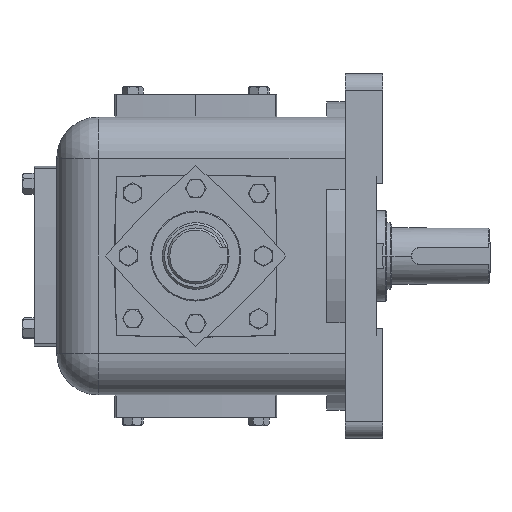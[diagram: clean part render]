
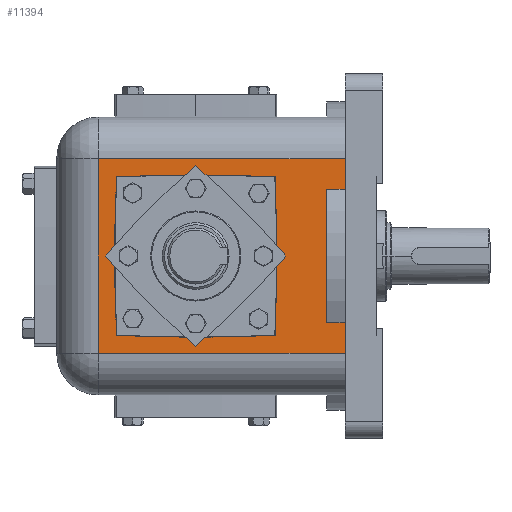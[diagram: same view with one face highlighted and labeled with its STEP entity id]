
A CAD part, left-side view. The second image highlights one B-rep face of the part: STEP entity #11394.
In plain terms, the highlighted planar face has unit normal (-1, 0, 0).
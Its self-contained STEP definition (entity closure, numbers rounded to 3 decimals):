
#160 = CARTESIAN_POINT ( 'NONE',  ( -148.8, -140., -71.299 ) ) ;
#487 = VECTOR ( 'NONE', #10374, 1000. ) ;
#519 = EDGE_CURVE ( 'NONE', #21745, #11830, #16353, .T. ) ;
#544 = EDGE_CURVE ( 'NONE', #16921, #16448, #15235, .T. ) ;
#573 = ORIENTED_EDGE ( 'NONE', *, *, #519, .F. ) ;
#632 = VERTEX_POINT ( 'NONE', #3250 ) ;
#694 = EDGE_CURVE ( 'NONE', #21745, #9436, #22090, .T. ) ;
#814 = CARTESIAN_POINT ( 'NONE',  ( -148.8, -84.85, 84.85 ) ) ;
#1352 = ORIENTED_EDGE ( 'NONE', *, *, #13426, .T. ) ;
#1415 = EDGE_CURVE ( 'NONE', #14057, #7329, #4536, .T. ) ;
#1717 = DIRECTION ( 'NONE',  ( 0., -1., 0. ) ) ;
#1922 = CARTESIAN_POINT ( 'NONE',  ( -148.8, 0., 1714.031 ) ) ;
#1997 = DIRECTION ( 'NONE',  ( 1., 0., 0. ) ) ;
#2115 = ORIENTED_EDGE ( 'NONE', *, *, #8111, .T. ) ;
#2378 = VECTOR ( 'NONE', #7888, 1000. ) ;
#2397 = PLANE ( 'NONE',  #20951 ) ;
#2419 = CARTESIAN_POINT ( 'NONE',  ( -148.8, 0., 1714.031 ) ) ;
#3250 = CARTESIAN_POINT ( 'NONE',  ( -148.8, -160., -71.299 ) ) ;
#3307 = FACE_BOUND ( 'NONE', #16941, .T. ) ;
#3626 = VERTEX_POINT ( 'NONE', #19653 ) ;
#3907 = ORIENTED_EDGE ( 'NONE', *, *, #7628, .T. ) ;
#4536 = CIRCLE ( 'NONE', #20270, 1800.881 ) ;
#4801 = LINE ( 'NONE', #20674, #22060 ) ;
#4873 = VECTOR ( 'NONE', #12652, 1000. ) ;
#4939 = EDGE_CURVE ( 'NONE', #20937, #16921, #20506, .T. ) ;
#5144 = CARTESIAN_POINT ( 'NONE',  ( -148.8, -160., 71.299 ) ) ;
#5302 = CARTESIAN_POINT ( 'NONE',  ( -148.8, -160., 104.345 ) ) ;
#5409 = EDGE_CURVE ( 'NONE', #632, #11830, #8759, .T. ) ;
#5836 = DIRECTION ( 'NONE',  ( -1., 0., 0. ) ) ;
#5942 = DIRECTION ( 'NONE',  ( 1., 0., 0. ) ) ;
#6838 = DIRECTION ( 'NONE',  ( 0., 0., 1. ) ) ;
#7177 = CARTESIAN_POINT ( 'NONE',  ( -148.8, -160., -104.345 ) ) ;
#7329 = VERTEX_POINT ( 'NONE', #814 ) ;
#7542 = CARTESIAN_POINT ( 'NONE',  ( -148.8, -160., -148.8 ) ) ;
#7584 = EDGE_CURVE ( 'NONE', #16448, #9574, #14373, .T. ) ;
#7628 = EDGE_CURVE ( 'NONE', #9574, #632, #4801, .T. ) ;
#7888 = DIRECTION ( 'NONE',  ( 0., 0., -1. ) ) ;
#8018 = FACE_OUTER_BOUND ( 'NONE', #8752, .T. ) ;
#8104 = DIRECTION ( 'NONE',  ( 0., 0., 1. ) ) ;
#8111 = EDGE_CURVE ( 'NONE', #3626, #8923, #20135, .T. ) ;
#8340 = DIRECTION ( 'NONE',  ( 1., 0., 0. ) ) ;
#8426 = CARTESIAN_POINT ( 'NONE',  ( -148.8, 0., -1714.031 ) ) ;
#8554 = ORIENTED_EDGE ( 'NONE', *, *, #21863, .T. ) ;
#8752 = EDGE_LOOP ( 'NONE', ( #3907, #8930, #573, #10458, #14153, #13471, #13004, #19524 ) ) ;
#8759 = LINE ( 'NONE', #18751, #487 ) ;
#8799 = VECTOR ( 'NONE', #6838, 1000. ) ;
#8911 = DIRECTION ( 'NONE',  ( 0., 0., 1. ) ) ;
#8923 = VERTEX_POINT ( 'NONE', #13766 ) ;
#8930 = ORIENTED_EDGE ( 'NONE', *, *, #5409, .T. ) ;
#9421 = CARTESIAN_POINT ( 'NONE',  ( -148.8, 1714.031, 0. ) ) ;
#9436 = VERTEX_POINT ( 'NONE', #5144 ) ;
#9574 = VERTEX_POINT ( 'NONE', #7177 ) ;
#9795 = VECTOR ( 'NONE', #18008, 1000. ) ;
#10279 = AXIS2_PLACEMENT_3D ( 'NONE', #1922, #1997, #12400 ) ;
#10374 = DIRECTION ( 'NONE',  ( 0., 1., 0. ) ) ;
#10449 = ORIENTED_EDGE ( 'NONE', *, *, #1415, .T. ) ;
#10458 = ORIENTED_EDGE ( 'NONE', *, *, #694, .T. ) ;
#11129 = VERTEX_POINT ( 'NONE', #15750 ) ;
#11394 = ADVANCED_FACE ( 'NONE', ( #3307, #8018 ), #2397, .T. ) ;
#11830 = VERTEX_POINT ( 'NONE', #160 ) ;
#12400 = DIRECTION ( 'NONE',  ( 0., 0., 1. ) ) ;
#12453 = CARTESIAN_POINT ( 'NONE',  ( -148.8, -140., -148.8 ) ) ;
#12501 = VECTOR ( 'NONE', #1717, 1000. ) ;
#12652 = DIRECTION ( 'NONE',  ( 0., 1., 0. ) ) ;
#12973 = CARTESIAN_POINT ( 'NONE',  ( -148.8, -160., -104.345 ) ) ;
#13004 = ORIENTED_EDGE ( 'NONE', *, *, #544, .T. ) ;
#13424 = CARTESIAN_POINT ( 'NONE',  ( -148.8, 84.85, 84.85 ) ) ;
#13426 = EDGE_CURVE ( 'NONE', #11129, #14057, #19130, .T. ) ;
#13471 = ORIENTED_EDGE ( 'NONE', *, *, #4939, .T. ) ;
#13766 = CARTESIAN_POINT ( 'NONE',  ( -148.8, 0., -86.85 ) ) ;
#14057 = VERTEX_POINT ( 'NONE', #13424 ) ;
#14115 = CARTESIAN_POINT ( 'NONE',  ( -148.8, -140., 71.299 ) ) ;
#14153 = ORIENTED_EDGE ( 'NONE', *, *, #21672, .T. ) ;
#14373 = LINE ( 'NONE', #12973, #18468 ) ;
#14438 = CARTESIAN_POINT ( 'NONE',  ( -148.8, 104.345, -104.345 ) ) ;
#14660 = DIRECTION ( 'NONE',  ( 1., 0., 0. ) ) ;
#14729 = DIRECTION ( 'NONE',  ( 0., 0., 1. ) ) ;
#15235 = LINE ( 'NONE', #19788, #2378 ) ;
#15396 = CIRCLE ( 'NONE', #16528, 1800.881 ) ;
#15633 = CARTESIAN_POINT ( 'NONE',  ( -148.8, -160., -148.8 ) ) ;
#15750 = CARTESIAN_POINT ( 'NONE',  ( -148.8, 84.85, -84.85 ) ) ;
#16353 = LINE ( 'NONE', #12453, #9795 ) ;
#16448 = VERTEX_POINT ( 'NONE', #14438 ) ;
#16528 = AXIS2_PLACEMENT_3D ( 'NONE', #9421, #5942, #14729 ) ;
#16921 = VERTEX_POINT ( 'NONE', #18724 ) ;
#16941 = EDGE_LOOP ( 'NONE', ( #20376, #2115, #8554, #1352, #10449 ) ) ;
#17219 = DIRECTION ( 'NONE',  ( 0., 0., 1. ) ) ;
#17579 = CARTESIAN_POINT ( 'NONE',  ( -148.8, -1714.031, 0. ) ) ;
#18008 = DIRECTION ( 'NONE',  ( 0., 0., -1. ) ) ;
#18025 = CARTESIAN_POINT ( 'NONE',  ( -148.8, -160., 104.345 ) ) ;
#18153 = DIRECTION ( 'NONE',  ( 0., 0., 1. ) ) ;
#18347 = AXIS2_PLACEMENT_3D ( 'NONE', #17579, #19323, #8911 ) ;
#18468 = VECTOR ( 'NONE', #20009, 1000. ) ;
#18639 = EDGE_CURVE ( 'NONE', #7329, #3626, #15396, .T. ) ;
#18724 = CARTESIAN_POINT ( 'NONE',  ( -148.8, 104.345, 104.345 ) ) ;
#18751 = CARTESIAN_POINT ( 'NONE',  ( -148.8, -140., -71.299 ) ) ;
#19130 = CIRCLE ( 'NONE', #18347, 1800.881 ) ;
#19323 = DIRECTION ( 'NONE',  ( 1., 0., 0. ) ) ;
#19524 = ORIENTED_EDGE ( 'NONE', *, *, #7584, .T. ) ;
#19653 = CARTESIAN_POINT ( 'NONE',  ( -148.8, -84.85, -84.85 ) ) ;
#19760 = DIRECTION ( 'NONE',  ( 0., 0., 1. ) ) ;
#19788 = CARTESIAN_POINT ( 'NONE',  ( -148.8, 104.345, -148.8 ) ) ;
#20009 = DIRECTION ( 'NONE',  ( 0., -1., 0. ) ) ;
#20135 = CIRCLE ( 'NONE', #20340, 1800.881 ) ;
#20270 = AXIS2_PLACEMENT_3D ( 'NONE', #8426, #8340, #8104 ) ;
#20340 = AXIS2_PLACEMENT_3D ( 'NONE', #2419, #14660, #18153 ) ;
#20376 = ORIENTED_EDGE ( 'NONE', *, *, #18639, .T. ) ;
#20506 = LINE ( 'NONE', #5302, #4873 ) ;
#20674 = CARTESIAN_POINT ( 'NONE',  ( -148.8, -160., -148.8 ) ) ;
#20803 = CIRCLE ( 'NONE', #10279, 1800.881 ) ;
#20937 = VERTEX_POINT ( 'NONE', #18025 ) ;
#20951 = AXIS2_PLACEMENT_3D ( 'NONE', #7542, #5836, #19760 ) ;
#21287 = CARTESIAN_POINT ( 'NONE',  ( -148.8, -140., 71.299 ) ) ;
#21672 = EDGE_CURVE ( 'NONE', #9436, #20937, #22687, .T. ) ;
#21745 = VERTEX_POINT ( 'NONE', #21287 ) ;
#21863 = EDGE_CURVE ( 'NONE', #8923, #11129, #20803, .T. ) ;
#22060 = VECTOR ( 'NONE', #17219, 1000. ) ;
#22090 = LINE ( 'NONE', #14115, #12501 ) ;
#22687 = LINE ( 'NONE', #15633, #8799 ) ;
